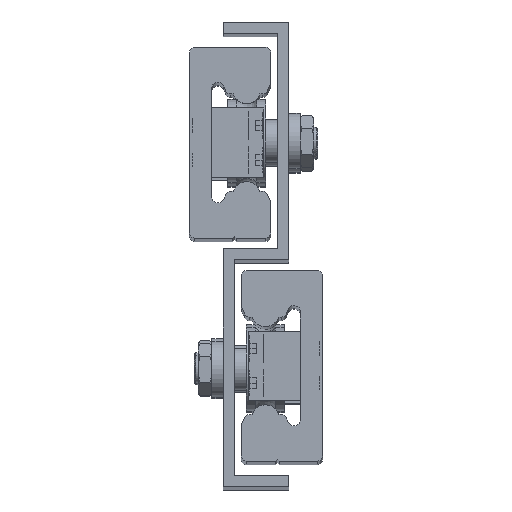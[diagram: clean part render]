
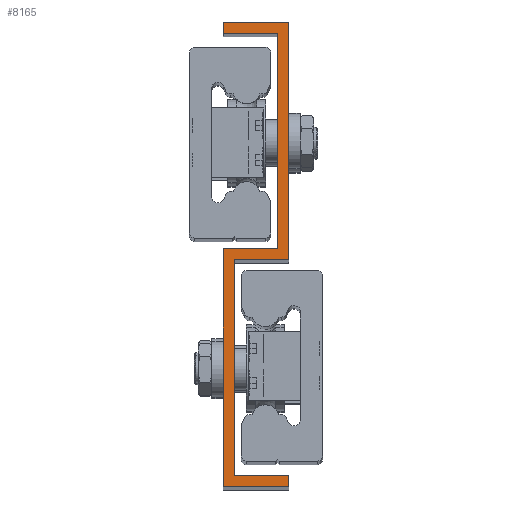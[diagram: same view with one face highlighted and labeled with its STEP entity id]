
A CAD part, top view. The second image highlights one B-rep face of the part: STEP entity #8165.
In plain terms, the highlighted planar face has unit normal (0, 0, 1).
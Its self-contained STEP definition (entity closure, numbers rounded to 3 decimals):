
#244 = DIRECTION ( 'NONE',  ( -1., 0., 0. ) ) ;
#381 = EDGE_LOOP ( 'NONE', ( #6771, #9622, #3496, #8191, #1164, #3183, #5114, #5140, #3939, #4142, #3974, #8229 ) ) ;
#382 = DIRECTION ( 'NONE',  ( 0., 1., 0. ) ) ;
#521 = EDGE_CURVE ( 'NONE', #663, #618, #5786, .T. ) ;
#563 = EDGE_CURVE ( 'NONE', #2957, #8074, #1485, .T. ) ;
#618 = VERTEX_POINT ( 'NONE', #9624 ) ;
#663 = VERTEX_POINT ( 'NONE', #2133 ) ;
#985 = CARTESIAN_POINT ( 'NONE',  ( 0., 0., 570. ) ) ;
#1028 = VECTOR ( 'NONE', #2873, 1000. ) ;
#1164 = ORIENTED_EDGE ( 'NONE', *, *, #4233, .F. ) ;
#1171 = DIRECTION ( 'NONE',  ( -1., 0., 0. ) ) ;
#1395 = LINE ( 'NONE', #9631, #1028 ) ;
#1485 = LINE ( 'NONE', #6615, #6820 ) ;
#1826 = LINE ( 'NONE', #6269, #8475 ) ;
#1850 = VECTOR ( 'NONE', #5887, 1000. ) ;
#1900 = LINE ( 'NONE', #4716, #2060 ) ;
#1996 = VECTOR ( 'NONE', #2088, 1000. ) ;
#2038 = DIRECTION ( 'NONE',  ( 0., -1., 0. ) ) ;
#2060 = VECTOR ( 'NONE', #8654, 1000. ) ;
#2088 = DIRECTION ( 'NONE',  ( 0., 1., 0. ) ) ;
#2133 = CARTESIAN_POINT ( 'NONE',  ( 19., 3.2, 570. ) ) ;
#2296 = DIRECTION ( 'NONE',  ( 1., 0., 0. ) ) ;
#2334 = CARTESIAN_POINT ( 'NONE',  ( 0., 68.6, 570. ) ) ;
#2341 = CARTESIAN_POINT ( 'NONE',  ( 15.8, 130.8, 570. ) ) ;
#2425 = DIRECTION ( 'NONE',  ( 0., 0., 1. ) ) ;
#2458 = VERTEX_POINT ( 'NONE', #2341 ) ;
#2515 = LINE ( 'NONE', #3308, #8115 ) ;
#2857 = CARTESIAN_POINT ( 'NONE',  ( 3.2, 65.4, 570. ) ) ;
#2873 = DIRECTION ( 'NONE',  ( 0., 1., 0. ) ) ;
#2929 = LINE ( 'NONE', #3575, #1850 ) ;
#2957 = VERTEX_POINT ( 'NONE', #4839 ) ;
#2961 = EDGE_CURVE ( 'NONE', #3300, #3476, #2515, .T. ) ;
#3070 = DIRECTION ( 'NONE',  ( 0., 1., 0. ) ) ;
#3138 = EDGE_CURVE ( 'NONE', #7370, #8608, #1395, .T. ) ;
#3144 = EDGE_CURVE ( 'NONE', #4562, #3615, #5884, .T. ) ;
#3183 = ORIENTED_EDGE ( 'NONE', *, *, #563, .F. ) ;
#3218 = CARTESIAN_POINT ( 'NONE',  ( 0., 0., 570. ) ) ;
#3300 = VERTEX_POINT ( 'NONE', #6084 ) ;
#3308 = CARTESIAN_POINT ( 'NONE',  ( 0., 130.8, 570. ) ) ;
#3361 = DIRECTION ( 'NONE',  ( 0., 1., 0. ) ) ;
#3476 = VERTEX_POINT ( 'NONE', #4897 ) ;
#3496 = ORIENTED_EDGE ( 'NONE', *, *, #4167, .F. ) ;
#3575 = CARTESIAN_POINT ( 'NONE',  ( 0., 68.6, 570. ) ) ;
#3615 = VERTEX_POINT ( 'NONE', #2857 ) ;
#3918 = LINE ( 'NONE', #3218, #5800 ) ;
#3939 = ORIENTED_EDGE ( 'NONE', *, *, #7713, .T. ) ;
#3974 = ORIENTED_EDGE ( 'NONE', *, *, #3977, .T. ) ;
#3977 = EDGE_CURVE ( 'NONE', #3615, #7370, #5897, .T. ) ;
#4080 = DIRECTION ( 'NONE',  ( -1., 0., 0. ) ) ;
#4142 = ORIENTED_EDGE ( 'NONE', *, *, #3144, .T. ) ;
#4167 = EDGE_CURVE ( 'NONE', #2458, #3300, #6487, .T. ) ;
#4233 = EDGE_CURVE ( 'NONE', #8074, #8581, #2929, .T. ) ;
#4411 = CARTESIAN_POINT ( 'NONE',  ( 3.2, 0., 570. ) ) ;
#4562 = VERTEX_POINT ( 'NONE', #7248 ) ;
#4716 = CARTESIAN_POINT ( 'NONE',  ( 0., 3.2, 570. ) ) ;
#4839 = CARTESIAN_POINT ( 'NONE',  ( 0., 0., 570. ) ) ;
#4897 = CARTESIAN_POINT ( 'NONE',  ( 0., 134., 570. ) ) ;
#4931 = CARTESIAN_POINT ( 'NONE',  ( 19., 134., 570. ) ) ;
#4948 = EDGE_CURVE ( 'NONE', #8581, #2458, #1826, .T. ) ;
#4978 = LINE ( 'NONE', #6464, #8841 ) ;
#5114 = ORIENTED_EDGE ( 'NONE', *, *, #7022, .F. ) ;
#5140 = ORIENTED_EDGE ( 'NONE', *, *, #521, .F. ) ;
#5380 = AXIS2_PLACEMENT_3D ( 'NONE', #985, #2425, #6279 ) ;
#5517 = CARTESIAN_POINT ( 'NONE',  ( 15.8, 68.6, 570. ) ) ;
#5786 = LINE ( 'NONE', #8793, #6974 ) ;
#5800 = VECTOR ( 'NONE', #244, 1000. ) ;
#5884 = LINE ( 'NONE', #4411, #1996 ) ;
#5887 = DIRECTION ( 'NONE',  ( 1., 0., 0. ) ) ;
#5897 = LINE ( 'NONE', #9060, #7185 ) ;
#6084 = CARTESIAN_POINT ( 'NONE',  ( 0., 130.8, 570. ) ) ;
#6269 = CARTESIAN_POINT ( 'NONE',  ( 15.8, 68.6, 570. ) ) ;
#6279 = DIRECTION ( 'NONE',  ( 1., 0., 0. ) ) ;
#6464 = CARTESIAN_POINT ( 'NONE',  ( 15.8, 134., 570. ) ) ;
#6487 = LINE ( 'NONE', #7906, #8941 ) ;
#6615 = CARTESIAN_POINT ( 'NONE',  ( 0., 0., 570. ) ) ;
#6771 = ORIENTED_EDGE ( 'NONE', *, *, #9744, .T. ) ;
#6820 = VECTOR ( 'NONE', #3070, 1000. ) ;
#6974 = VECTOR ( 'NONE', #2038, 1000. ) ;
#7021 = CARTESIAN_POINT ( 'NONE',  ( 19., 65.4, 570. ) ) ;
#7022 = EDGE_CURVE ( 'NONE', #618, #2957, #3918, .T. ) ;
#7185 = VECTOR ( 'NONE', #2296, 1000. ) ;
#7248 = CARTESIAN_POINT ( 'NONE',  ( 3.2, 3.2, 570. ) ) ;
#7370 = VERTEX_POINT ( 'NONE', #7021 ) ;
#7713 = EDGE_CURVE ( 'NONE', #663, #4562, #1900, .T. ) ;
#7843 = PLANE ( 'NONE',  #5380 ) ;
#7906 = CARTESIAN_POINT ( 'NONE',  ( 15.8, 130.8, 570. ) ) ;
#8074 = VERTEX_POINT ( 'NONE', #2334 ) ;
#8115 = VECTOR ( 'NONE', #3361, 1000. ) ;
#8165 = ADVANCED_FACE ( 'NONE', ( #9328 ), #7843, .T. ) ;
#8191 = ORIENTED_EDGE ( 'NONE', *, *, #4948, .F. ) ;
#8229 = ORIENTED_EDGE ( 'NONE', *, *, #3138, .T. ) ;
#8475 = VECTOR ( 'NONE', #382, 1000. ) ;
#8581 = VERTEX_POINT ( 'NONE', #5517 ) ;
#8608 = VERTEX_POINT ( 'NONE', #4931 ) ;
#8654 = DIRECTION ( 'NONE',  ( -1., 0., 0. ) ) ;
#8793 = CARTESIAN_POINT ( 'NONE',  ( 19., 3.2, 570. ) ) ;
#8841 = VECTOR ( 'NONE', #1171, 1000. ) ;
#8941 = VECTOR ( 'NONE', #4080, 1000. ) ;
#9060 = CARTESIAN_POINT ( 'NONE',  ( 0., 65.4, 570. ) ) ;
#9328 = FACE_OUTER_BOUND ( 'NONE', #381, .T. ) ;
#9622 = ORIENTED_EDGE ( 'NONE', *, *, #2961, .F. ) ;
#9624 = CARTESIAN_POINT ( 'NONE',  ( 19., 0., 570. ) ) ;
#9631 = CARTESIAN_POINT ( 'NONE',  ( 19., 68.6, 570. ) ) ;
#9744 = EDGE_CURVE ( 'NONE', #8608, #3476, #4978, .T. ) ;
